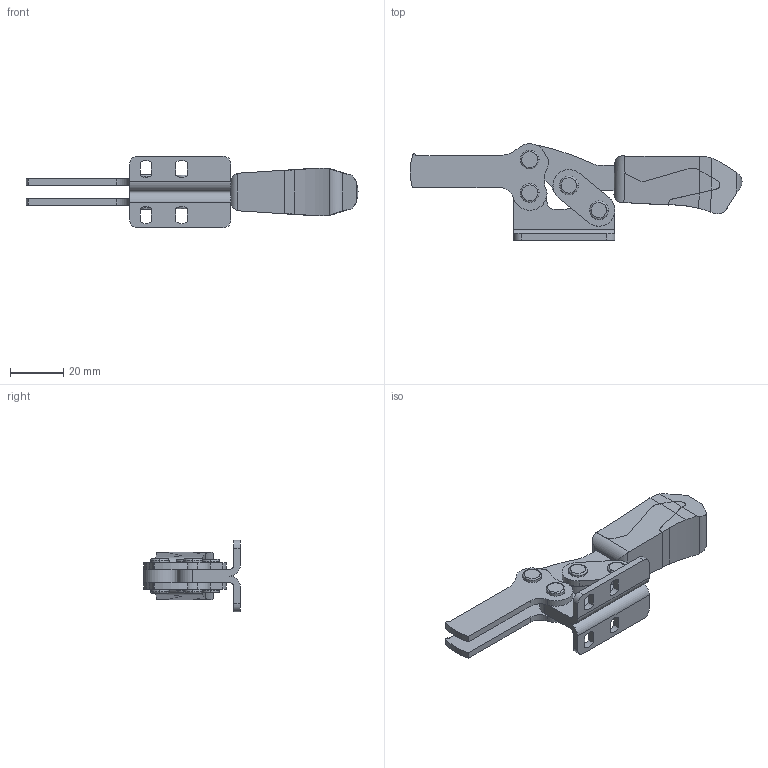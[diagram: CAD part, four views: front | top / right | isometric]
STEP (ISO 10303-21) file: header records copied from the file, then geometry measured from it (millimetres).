
FILE_DESCRIPTION (( 'STEP AP214' ), '1' );
FILE_NAME ('HWS201_1.STEP', '2020-05-13T06:05:37', ( '' ), ( '' ), 'SwSTEP 2.0', 'SolidWorks 2018', '' );
FILE_SCHEMA (( 'AUTOMOTIVE_DESIGN' ));
Length unit declared in the file: millimetre
Products named in the file (6): HWS201_1; _AMF404368; _AMF552552-3_0; _AMF552552_2; _AMF552552_1; _AMF552552-6_0
Assembly tree (5 placements, depth 2):
  HWS201_1
    _AMF552552_1
    _AMF552552_2
    _AMF552552-3_0
    _AMF404368
    _AMF552552-6_0
Bounding box: 124.75 x 36.25 x 27 mm (x, y, z)
Volume: 25790.1 mm3; surface area: 14985.9 mm2
Topology: 5 solids, 5 shells, 221 faces, 583 edges, 383 vertices
Faces by surface type: cylinder 113, plane 92, bspline 16
Entity records: 7809 total; most frequent: CARTESIAN_POINT 1751, ORIENTED_EDGE 1166, DIRECTION 1137, EDGE_CURVE 583, AXIS2_PLACEMENT_3D 413, VERTEX_POINT 383, LINE 311, VECTOR 311
